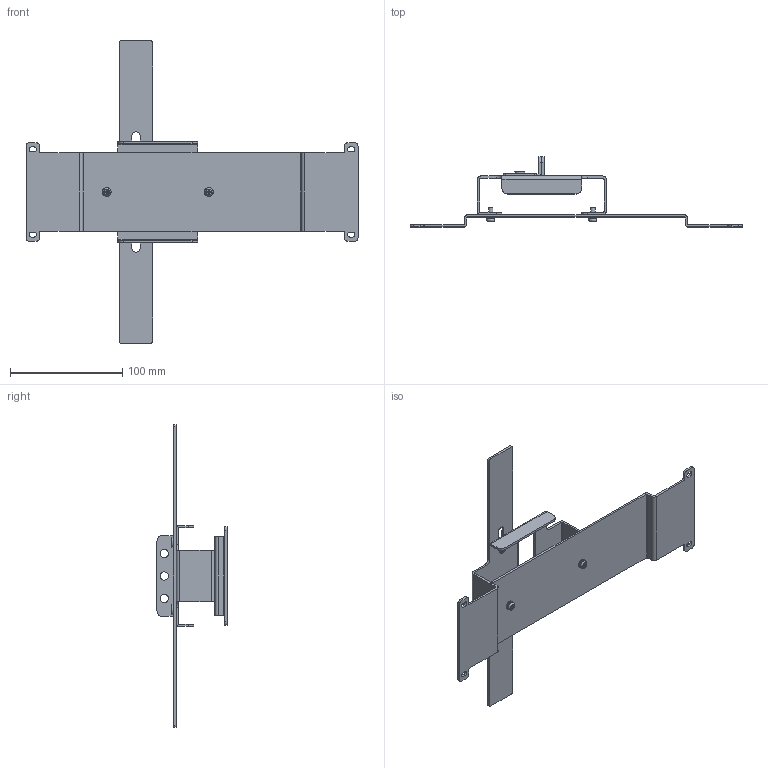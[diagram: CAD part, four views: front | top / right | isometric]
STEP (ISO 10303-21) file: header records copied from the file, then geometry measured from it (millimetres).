
FILE_DESCRIPTION((''),'2;1');
FILE_NAME('U8_3P_INTERLOCK_ASSY_ASM','2018-06-04T',('HHI'),(''),'PRO/ENGINEER BY PARAMETRIC TECHNOLOGY CORPORATION, 2012453','PRO/ENGINEER BY PARAMETRIC TECHNOLOGY CORPORATION, 2012453','');
FILE_SCHEMA(('CONFIG_CONTROL_DESIGN'));
Length unit declared in the file: millimetre
Products named in the file (11): U8_INTERLOCK_ASSY_SKEL_SKEL0001; U8_INTERLOCK_FRAME; U6_INTERLOCK_GUIDE; U8_3P_INTERLOCK_BAR; U6_LEVER_PIN; U8_MIF_80GP_3_LABEL; M4_L10_PH_SCREW; D4_ASSY2_SPRING_WASHER; D4_SMALL_PLAIN_WASHER; M4_L10_P_SW_PH_SCREW_ASM; U8_3P_INTERLOCK_ASSY_ASM
Assembly tree (12 placements, depth 3):
  U8_3P_INTERLOCK_ASSY_ASM
    U8_INTERLOCK_ASSY_SKEL_SKEL0001
    U8_INTERLOCK_FRAME
    U6_INTERLOCK_GUIDE
    U8_3P_INTERLOCK_BAR
    U6_LEVER_PIN  x2
    U8_MIF_80GP_3_LABEL
    M4_L10_P_SW_PH_SCREW_ASM  x2
      M4_L10_PH_SCREW
      D4_ASSY2_SPRING_WASHER
      D4_SMALL_PLAIN_WASHER
Bounding box: 296 x 62.5 x 270 mm (x, y, z)
Volume: 90827.8 mm3; surface area: 97607.7 mm2
Topology: 12 solids, 12 shells, 414 faces, 1080 edges, 710 vertices
Faces by surface type: plane 199, cylinder 142, extrusion 45, torus 16, cone 8, sphere 4
Entity records: 11780 total; most frequent: CARTESIAN_POINT 2685, ORIENTED_EDGE 1854, DIRECTION 1806, EDGE_CURVE 927, VERTEX_POINT 613, AXIS2_PLACEMENT_3D 607, VECTOR 592, LINE 547
